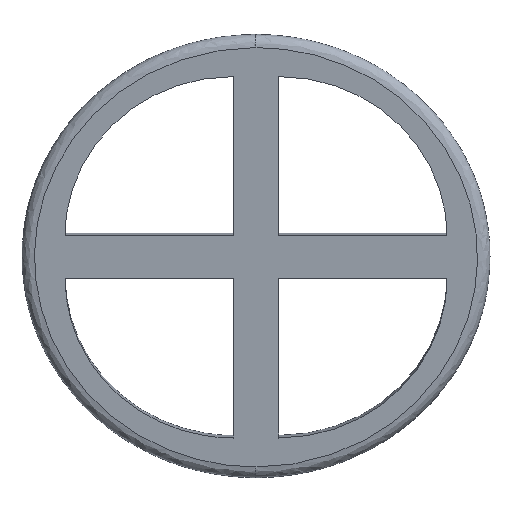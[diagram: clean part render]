
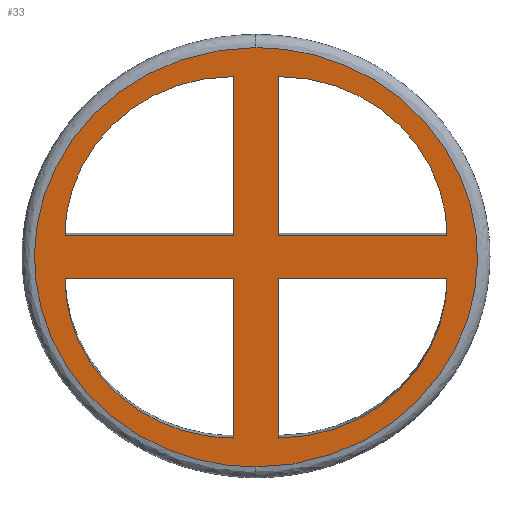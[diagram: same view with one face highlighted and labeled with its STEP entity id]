
A CAD part, front view. The second image highlights one B-rep face of the part: STEP entity #33.
In plain terms, the highlighted planar face has unit normal (-0.001, -0.994, -0.107).
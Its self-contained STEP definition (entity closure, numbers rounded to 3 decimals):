
#24=FACE_BOUND('',#70,.T.);
#25=FACE_BOUND('',#71,.T.);
#26=FACE_BOUND('',#72,.T.);
#27=FACE_BOUND('',#73,.T.);
#33=ADVANCED_FACE('',(#51,#24,#25,#26,#27),#308,.T.);
#51=FACE_OUTER_BOUND('',#69,.T.);
#69=EDGE_LOOP('',(#98,#99));
#70=EDGE_LOOP('',(#100,#101,#102));
#71=EDGE_LOOP('',(#103,#104,#105));
#72=EDGE_LOOP('',(#106,#107,#108));
#73=EDGE_LOOP('',(#109,#110,#111));
#98=ORIENTED_EDGE('',*,*,#197,.T.);
#99=ORIENTED_EDGE('',*,*,#231,.T.);
#100=ORIENTED_EDGE('',*,*,#204,.F.);
#101=ORIENTED_EDGE('',*,*,#189,.F.);
#102=ORIENTED_EDGE('',*,*,#188,.F.);
#103=ORIENTED_EDGE('',*,*,#190,.F.);
#104=ORIENTED_EDGE('',*,*,#208,.F.);
#105=ORIENTED_EDGE('',*,*,#191,.F.);
#106=ORIENTED_EDGE('',*,*,#192,.F.);
#107=ORIENTED_EDGE('',*,*,#215,.F.);
#108=ORIENTED_EDGE('',*,*,#193,.F.);
#109=ORIENTED_EDGE('',*,*,#225,.T.);
#110=ORIENTED_EDGE('',*,*,#194,.T.);
#111=ORIENTED_EDGE('',*,*,#195,.T.);
#188=EDGE_CURVE('',#279,#280,#232,.T.);
#189=EDGE_CURVE('',#280,#281,#233,.T.);
#190=EDGE_CURVE('',#283,#284,#234,.T.);
#191=EDGE_CURVE('',#284,#282,#235,.T.);
#192=EDGE_CURVE('',#286,#287,#236,.T.);
#193=EDGE_CURVE('',#287,#285,#237,.T.);
#194=EDGE_CURVE('',#288,#289,#238,.T.);
#195=EDGE_CURVE('',#289,#290,#239,.T.);
#197=EDGE_CURVE('',#303,#307,#259,.T.);
#204=EDGE_CURVE('',#281,#279,#261,.T.);
#208=EDGE_CURVE('',#282,#283,#265,.T.);
#215=EDGE_CURVE('',#285,#286,#269,.T.);
#225=EDGE_CURVE('',#290,#288,#271,.T.);
#231=EDGE_CURVE('',#307,#303,#277,.T.);
#232=B_SPLINE_CURVE_WITH_KNOTS('',1,(#1213,#1214),.UNSPECIFIED.,.F.,.F.,
(2,2),(6.283,6.783),.UNSPECIFIED.);
#233=B_SPLINE_CURVE_WITH_KNOTS('',1,(#1215,#1216),.UNSPECIFIED.,.F.,.F.,
(2,2),(6.783,7.783),.UNSPECIFIED.);
#234=B_SPLINE_CURVE_WITH_KNOTS('',1,(#1217,#1218),.UNSPECIFIED.,.F.,.F.,
(2,2),(5.142,6.142),.UNSPECIFIED.);
#235=B_SPLINE_CURVE_WITH_KNOTS('',1,(#1219,#1220),.UNSPECIFIED.,.F.,.F.,
(2,2),(6.142,6.642),.UNSPECIFIED.);
#236=B_SPLINE_CURVE_WITH_KNOTS('',1,(#1221,#1222),.UNSPECIFIED.,.F.,.F.,
(2,2),(6.142,7.142),.UNSPECIFIED.);
#237=B_SPLINE_CURVE_WITH_KNOTS('',1,(#1223,#1224),.UNSPECIFIED.,.F.,.F.,
(2,2),(7.142,7.642),.UNSPECIFIED.);
#238=B_SPLINE_CURVE_WITH_KNOTS('',1,(#1225,#1226),.UNSPECIFIED.,.F.,.F.,
(2,2),(0.,1.),.UNSPECIFIED.);
#239=B_SPLINE_CURVE_WITH_KNOTS('',1,(#1227,#1228),.UNSPECIFIED.,.F.,.F.,
(2,2),(1.,1.5),.UNSPECIFIED.);
#259=(
BOUNDED_CURVE()
B_SPLINE_CURVE(2,(#1234,#1235,#1236,#1237,#1238),.UNSPECIFIED.,.F.,.F.)
B_SPLINE_CURVE_WITH_KNOTS((3,2,3),(0.,1.571,3.142),
 .UNSPECIFIED.)
CURVE()
GEOMETRIC_REPRESENTATION_ITEM()
RATIONAL_B_SPLINE_CURVE((1.,0.707,1.,0.707,1.))
REPRESENTATION_ITEM('')
);
#261=(
BOUNDED_CURVE()
B_SPLINE_CURVE(2,(#1252,#1253,#1254),.UNSPECIFIED.,.F.,.F.)
B_SPLINE_CURVE_WITH_KNOTS((3,3),(7.783,9.354),
 .UNSPECIFIED.)
CURVE()
GEOMETRIC_REPRESENTATION_ITEM()
RATIONAL_B_SPLINE_CURVE((1.,0.707,1.))
REPRESENTATION_ITEM('')
);
#265=(
BOUNDED_CURVE()
B_SPLINE_CURVE(2,(#1262,#1263,#1264),.UNSPECIFIED.,.F.,.F.)
B_SPLINE_CURVE_WITH_KNOTS((3,3),(3.571,5.142),
 .UNSPECIFIED.)
CURVE()
GEOMETRIC_REPRESENTATION_ITEM()
RATIONAL_B_SPLINE_CURVE((1.,0.707,1.))
REPRESENTATION_ITEM('')
);
#269=(
BOUNDED_CURVE()
B_SPLINE_CURVE(2,(#1278,#1279,#1280),.UNSPECIFIED.,.F.,.F.)
B_SPLINE_CURVE_WITH_KNOTS((3,3),(4.571,6.142),
 .UNSPECIFIED.)
CURVE()
GEOMETRIC_REPRESENTATION_ITEM()
RATIONAL_B_SPLINE_CURVE((1.,0.707,1.))
REPRESENTATION_ITEM('')
);
#271=(
BOUNDED_CURVE()
B_SPLINE_CURVE(2,(#1300,#1301,#1302),.UNSPECIFIED.,.F.,.F.)
B_SPLINE_CURVE_WITH_KNOTS((3,3),(1.5,3.071),.UNSPECIFIED.)
CURVE()
GEOMETRIC_REPRESENTATION_ITEM()
RATIONAL_B_SPLINE_CURVE((1.,0.707,1.))
REPRESENTATION_ITEM('')
);
#277=(
BOUNDED_CURVE()
B_SPLINE_CURVE(2,(#1371,#1372,#1373,#1374,#1375),.UNSPECIFIED.,.F.,.F.)
B_SPLINE_CURVE_WITH_KNOTS((3,2,3),(3.142,4.712,6.283),
 .UNSPECIFIED.)
CURVE()
GEOMETRIC_REPRESENTATION_ITEM()
RATIONAL_B_SPLINE_CURVE((1.,0.707,1.,0.707,1.))
REPRESENTATION_ITEM('')
);
#279=VERTEX_POINT('',#1127);
#280=VERTEX_POINT('',#1128);
#281=VERTEX_POINT('',#1129);
#282=VERTEX_POINT('',#1130);
#283=VERTEX_POINT('',#1131);
#284=VERTEX_POINT('',#1132);
#285=VERTEX_POINT('',#1133);
#286=VERTEX_POINT('',#1134);
#287=VERTEX_POINT('',#1135);
#288=VERTEX_POINT('',#1136);
#289=VERTEX_POINT('',#1137);
#290=VERTEX_POINT('',#1138);
#303=VERTEX_POINT('',#1151);
#307=VERTEX_POINT('',#1155);
#308=PLANE('',#346);
#346=AXIS2_PLACEMENT_3D('',#552,#359,$);
#359=DIRECTION('',(-0.001,-0.994,-0.107));
#552=CARTESIAN_POINT('',(-28.659,-91.684,-18.099));
#1127=CARTESIAN_POINT('',(-2.95,-92.166,-13.911));
#1128=CARTESIAN_POINT('',(-2.95,-94.338,6.234));
#1129=CARTESIAN_POINT('',(-24.231,-94.313,6.236));
#1130=CARTESIAN_POINT('',(-2.95,-97.092,31.778));
#1131=CARTESIAN_POINT('',(-24.231,-94.895,11.636));
#1132=CARTESIAN_POINT('',(-2.95,-94.921,11.633));
#1133=CARTESIAN_POINT('',(2.754,-92.173,-13.912));
#1134=CARTESIAN_POINT('',(24.035,-94.371,6.23));
#1135=CARTESIAN_POINT('',(2.754,-94.345,6.233));
#1136=CARTESIAN_POINT('',(24.035,-94.953,11.63));
#1137=CARTESIAN_POINT('',(2.754,-94.927,11.633));
#1138=CARTESIAN_POINT('',(2.754,-97.099,31.777));
#1151=CARTESIAN_POINT('',(-0.098,-91.775,-17.573));
#1155=CARTESIAN_POINT('',(-0.098,-97.491,35.439));
#1213=CARTESIAN_POINT('',(-2.95,-92.166,-13.911));
#1214=CARTESIAN_POINT('',(-2.95,-94.338,6.234));
#1215=CARTESIAN_POINT('',(-2.95,-94.338,6.234));
#1216=CARTESIAN_POINT('',(-24.231,-94.313,6.236));
#1217=CARTESIAN_POINT('',(-24.231,-94.895,11.636));
#1218=CARTESIAN_POINT('',(-2.95,-94.921,11.633));
#1219=CARTESIAN_POINT('',(-2.95,-94.921,11.633));
#1220=CARTESIAN_POINT('',(-2.95,-97.092,31.778));
#1221=CARTESIAN_POINT('',(24.035,-94.371,6.23));
#1222=CARTESIAN_POINT('',(2.754,-94.345,6.233));
#1223=CARTESIAN_POINT('',(2.754,-94.345,6.233));
#1224=CARTESIAN_POINT('',(2.754,-92.173,-13.912));
#1225=CARTESIAN_POINT('',(24.035,-94.953,11.63));
#1226=CARTESIAN_POINT('',(2.754,-94.927,11.633));
#1227=CARTESIAN_POINT('',(2.754,-94.927,11.633));
#1228=CARTESIAN_POINT('',(2.754,-97.099,31.777));
#1234=CARTESIAN_POINT('',(-0.098,-91.775,-17.573));
#1235=CARTESIAN_POINT('',(27.903,-91.809,-17.577));
#1236=CARTESIAN_POINT('',(27.903,-94.667,8.93));
#1237=CARTESIAN_POINT('',(27.903,-97.524,35.436));
#1238=CARTESIAN_POINT('',(-0.098,-97.491,35.439));
#1252=CARTESIAN_POINT('',(-24.231,-94.313,6.236));
#1253=CARTESIAN_POINT('',(-24.231,-92.141,-13.908));
#1254=CARTESIAN_POINT('',(-2.95,-92.166,-13.911));
#1262=CARTESIAN_POINT('',(-2.95,-97.092,31.778));
#1263=CARTESIAN_POINT('',(-24.231,-97.067,31.781));
#1264=CARTESIAN_POINT('',(-24.231,-94.895,11.636));
#1278=CARTESIAN_POINT('',(2.754,-92.173,-13.912));
#1279=CARTESIAN_POINT('',(24.035,-92.199,-13.915));
#1280=CARTESIAN_POINT('',(24.035,-94.371,6.23));
#1300=CARTESIAN_POINT('',(2.754,-97.099,31.777));
#1301=CARTESIAN_POINT('',(24.035,-97.125,31.775));
#1302=CARTESIAN_POINT('',(24.035,-94.953,11.63));
#1371=CARTESIAN_POINT('',(-0.098,-97.491,35.439));
#1372=CARTESIAN_POINT('',(-28.099,-97.457,35.443));
#1373=CARTESIAN_POINT('',(-28.099,-94.599,8.937));
#1374=CARTESIAN_POINT('',(-28.099,-91.741,-17.569));
#1375=CARTESIAN_POINT('',(-0.098,-91.775,-17.573));
